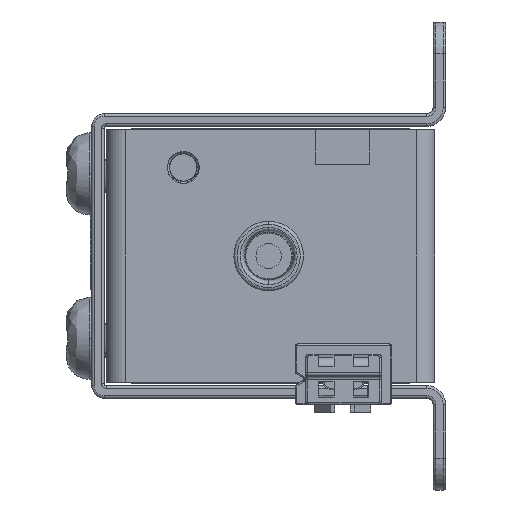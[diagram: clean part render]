
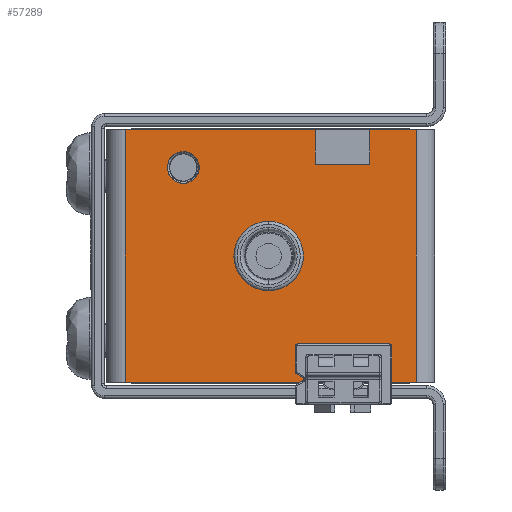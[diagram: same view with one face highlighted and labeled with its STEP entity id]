
A CAD part, left-side view. The second image highlights one B-rep face of the part: STEP entity #57289.
In plain terms, the highlighted planar face has unit normal (-1, 0, 0).
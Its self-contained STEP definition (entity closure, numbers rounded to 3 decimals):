
#51882=CARTESIAN_POINT('',(-27.,0.5,0.));
#51883=DIRECTION('',(-1.,0.,0.));
#51884=DIRECTION('',(0.,0.,1.));
#51885=AXIS2_PLACEMENT_3D('',#51882,#51883,#51884);
#51887=CARTESIAN_POINT('',(-27.,0.5,0.));
#51888=DIRECTION('',(-1.,0.,0.));
#51889=DIRECTION('',(0.,0.,-1.));
#51890=AXIS2_PLACEMENT_3D('',#51887,#51888,#51889);
#51892=CARTESIAN_POINT('',(-27.,7.25,7.));
#51893=DIRECTION('',(-1.,0.,0.));
#51894=DIRECTION('',(0.,0.,1.));
#51895=AXIS2_PLACEMENT_3D('',#51892,#51893,#51894);
#51897=CARTESIAN_POINT('',(-27.,7.25,7.));
#51898=DIRECTION('',(-1.,0.,0.));
#51899=DIRECTION('',(0.,0.,-1.));
#51900=AXIS2_PLACEMENT_3D('',#51897,#51898,#51899);
#51902=DIRECTION('',(0.,-1.,0.));
#51903=VECTOR('',#51902,15.05);
#51904=CARTESIAN_POINT('',(-27.,11.85,-10.));
#51905=LINE('',#51904,#51903);
#51906=DIRECTION('',(0.,0.,-1.));
#51907=VECTOR('',#51906,20.);
#51908=CARTESIAN_POINT('',(-27.,11.85,10.));
#51909=LINE('',#51908,#51907);
#51910=DIRECTION('',(0.,-1.,0.));
#51911=VECTOR('',#51910,15.05);
#51912=CARTESIAN_POINT('',(-27.,11.85,10.));
#51913=LINE('',#51912,#51911);
#51914=DIRECTION('',(0.,0.,-1.));
#51915=VECTOR('',#51914,2.75);
#51916=CARTESIAN_POINT('',(-27.,-3.2,10.));
#51917=LINE('',#51916,#51915);
#51918=DIRECTION('',(0.,-1.,0.));
#51919=VECTOR('',#51918,4.3);
#51920=CARTESIAN_POINT('',(-27.,-3.2,7.25));
#51921=LINE('',#51920,#51919);
#51922=DIRECTION('',(0.,0.,-1.));
#51923=VECTOR('',#51922,2.75);
#51924=CARTESIAN_POINT('',(-27.,-7.5,10.));
#51925=LINE('',#51924,#51923);
#51926=DIRECTION('',(0.,-1.,0.));
#51927=VECTOR('',#51926,3.65);
#51928=CARTESIAN_POINT('',(-27.,-7.5,10.));
#51929=LINE('',#51928,#51927);
#51930=DIRECTION('',(0.,0.,-1.));
#51931=VECTOR('',#51930,20.);
#51932=CARTESIAN_POINT('',(-27.,-11.15,10.));
#51933=LINE('',#51932,#51931);
#51934=DIRECTION('',(0.,-1.,0.));
#51935=VECTOR('',#51934,3.65);
#51936=CARTESIAN_POINT('',(-27.,-7.5,-10.));
#51937=LINE('',#51936,#51935);
#51938=DIRECTION('',(0.,0.,1.));
#51939=VECTOR('',#51938,2.75);
#51940=CARTESIAN_POINT('',(-27.,-7.5,-10.));
#51941=LINE('',#51940,#51939);
#51942=DIRECTION('',(0.,1.,0.));
#51943=VECTOR('',#51942,4.3);
#51944=CARTESIAN_POINT('',(-27.,-7.5,-7.25));
#51945=LINE('',#51944,#51943);
#51946=DIRECTION('',(0.,0.,1.));
#51947=VECTOR('',#51946,2.75);
#51948=CARTESIAN_POINT('',(-27.,-3.2,-10.));
#51949=LINE('',#51948,#51947);
#56463=CARTESIAN_POINT('',(-27.,0.5,2.75));
#56464=CARTESIAN_POINT('',(-27.,0.5,-2.75));
#56465=VERTEX_POINT('',#56463);
#56466=VERTEX_POINT('',#56464);
#56523=CARTESIAN_POINT('',(-27.,-7.5,-7.25));
#56524=CARTESIAN_POINT('',(-27.,-3.2,-7.25));
#56525=VERTEX_POINT('',#56523);
#56526=VERTEX_POINT('',#56524);
#56531=CARTESIAN_POINT('',(-27.,-3.2,7.25));
#56532=CARTESIAN_POINT('',(-27.,-7.5,7.25));
#56533=VERTEX_POINT('',#56531);
#56534=VERTEX_POINT('',#56532);
#56579=CARTESIAN_POINT('',(-27.,7.25,8.25));
#56580=CARTESIAN_POINT('',(-27.,7.25,5.75));
#56581=VERTEX_POINT('',#56579);
#56582=VERTEX_POINT('',#56580);
#56979=CARTESIAN_POINT('',(-27.,11.85,-10.));
#56980=CARTESIAN_POINT('',(-27.,-3.2,-10.));
#56981=VERTEX_POINT('',#56979);
#56982=VERTEX_POINT('',#56980);
#56983=CARTESIAN_POINT('',(-27.,-7.5,-10.));
#56984=CARTESIAN_POINT('',(-27.,-11.15,-10.));
#56985=VERTEX_POINT('',#56983);
#56986=VERTEX_POINT('',#56984);
#56987=CARTESIAN_POINT('',(-27.,11.85,10.));
#56988=CARTESIAN_POINT('',(-27.,-3.2,10.));
#56989=VERTEX_POINT('',#56987);
#56990=VERTEX_POINT('',#56988);
#56991=CARTESIAN_POINT('',(-27.,-7.5,10.));
#56992=CARTESIAN_POINT('',(-27.,-11.15,10.));
#56993=VERTEX_POINT('',#56991);
#56994=VERTEX_POINT('',#56992);
#57248=CARTESIAN_POINT('',(-27.,13.35,-10.1));
#57249=DIRECTION('',(-1.,0.,0.));
#57250=DIRECTION('',(0.,-1.,0.));
#57251=AXIS2_PLACEMENT_3D('',#57248,#57249,#57250);
#57252=PLANE('',#57251);
#57254=ORIENTED_EDGE('',*,*,#57253,.F.);
#57256=ORIENTED_EDGE('',*,*,#57255,.F.);
#57258=ORIENTED_EDGE('',*,*,#57257,.T.);
#57260=ORIENTED_EDGE('',*,*,#57259,.T.);
#57262=ORIENTED_EDGE('',*,*,#57261,.T.);
#57264=ORIENTED_EDGE('',*,*,#57263,.F.);
#57266=ORIENTED_EDGE('',*,*,#57265,.T.);
#57268=ORIENTED_EDGE('',*,*,#57267,.T.);
#57270=ORIENTED_EDGE('',*,*,#57269,.F.);
#57272=ORIENTED_EDGE('',*,*,#57271,.T.);
#57274=ORIENTED_EDGE('',*,*,#57273,.T.);
#57276=ORIENTED_EDGE('',*,*,#57275,.F.);
#57277=EDGE_LOOP('',(#57254,#57256,#57258,#57260,#57262,#57264,#57266,#57268,
#57270,#57272,#57274,#57276));
#57278=FACE_OUTER_BOUND('',#57277,.F.);
#57280=ORIENTED_EDGE('',*,*,#57279,.T.);
#57282=ORIENTED_EDGE('',*,*,#57281,.T.);
#57283=EDGE_LOOP('',(#57280,#57282));
#57284=FACE_BOUND('',#57283,.F.);
#57285=ORIENTED_EDGE('',*,*,#57235,.T.);
#57286=ORIENTED_EDGE('',*,*,#57214,.T.);
#57287=EDGE_LOOP('',(#57285,#57286));
#57288=FACE_BOUND('',#57287,.F.);
#57289=ADVANCED_FACE('',(#57278,#57284,#57288),#57252,.T.);
#51886=CIRCLE('',#51885,2.75);
#51891=CIRCLE('',#51890,2.75);
#51896=CIRCLE('',#51895,1.25);
#51901=CIRCLE('',#51900,1.25);
#57214=EDGE_CURVE('',#56466,#56465,#51891,.T.);
#57235=EDGE_CURVE('',#56465,#56466,#51886,.T.);
#57253=EDGE_CURVE('',#56981,#56982,#51905,.T.);
#57255=EDGE_CURVE('',#56989,#56981,#51909,.T.);
#57257=EDGE_CURVE('',#56989,#56990,#51913,.T.);
#57259=EDGE_CURVE('',#56990,#56533,#51917,.T.);
#57261=EDGE_CURVE('',#56533,#56534,#51921,.T.);
#57263=EDGE_CURVE('',#56993,#56534,#51925,.T.);
#57265=EDGE_CURVE('',#56993,#56994,#51929,.T.);
#57267=EDGE_CURVE('',#56994,#56986,#51933,.T.);
#57269=EDGE_CURVE('',#56985,#56986,#51937,.T.);
#57271=EDGE_CURVE('',#56985,#56525,#51941,.T.);
#57273=EDGE_CURVE('',#56525,#56526,#51945,.T.);
#57275=EDGE_CURVE('',#56982,#56526,#51949,.T.);
#57279=EDGE_CURVE('',#56581,#56582,#51896,.T.);
#57281=EDGE_CURVE('',#56582,#56581,#51901,.T.);
